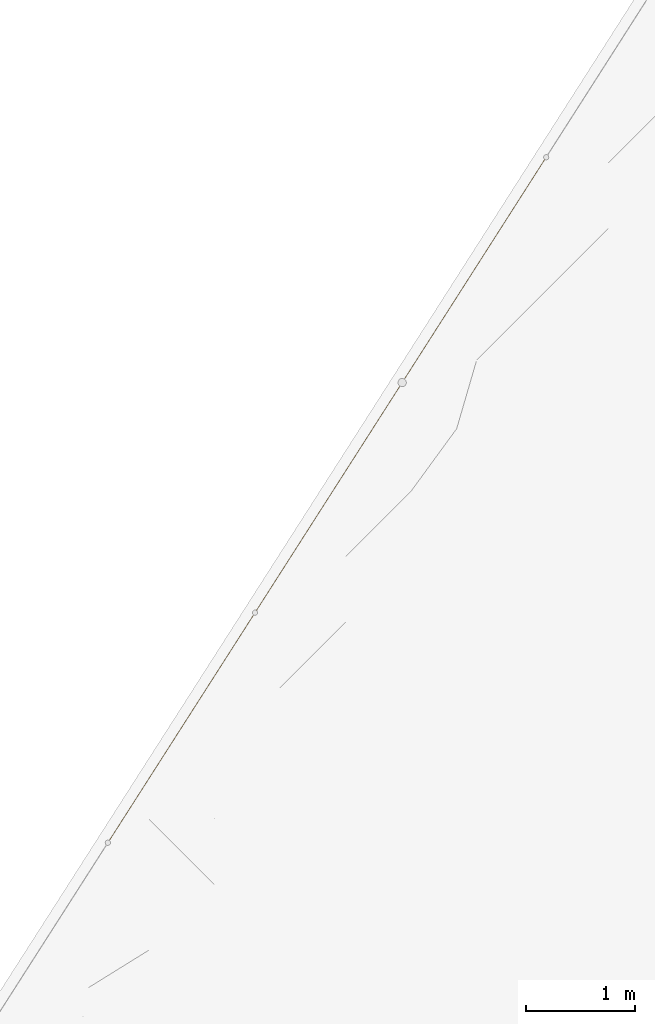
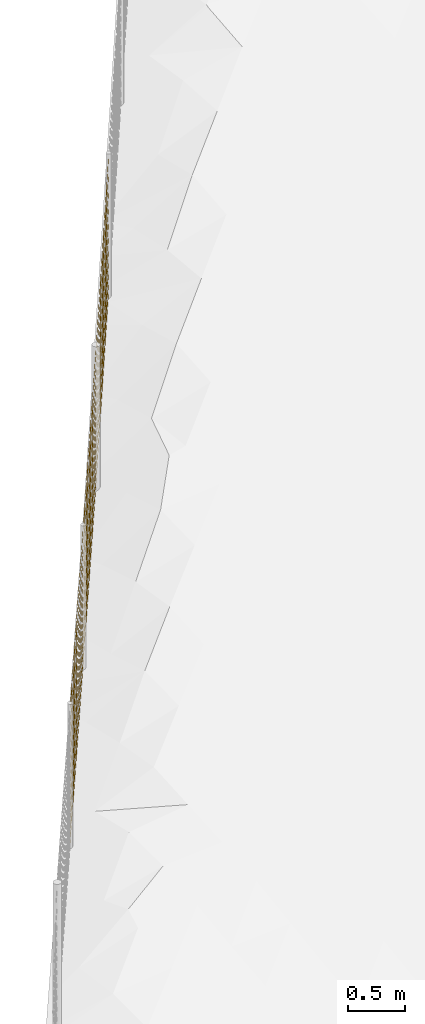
# Not in any storey, part 30 of 72: 3 railings.
"""IFC4 model written with IfcOpenShell, lengths in metres."""

from ifc_helpers import new_model, si_unit, direction, frame, origin_with_axes, place, context, subcontext, project, spatial, polygons, material, element, save


model = new_model("IFC4")

# Units and contexts
model_context = context("Model", 3, precision=1e-05, world=origin_with_axes(), true_north=direction((0.0, 1.0)))
body_context = subcontext(model_context, "Body", "Model", "MODEL_VIEW")
ifc_project = project(units=[si_unit("AREAUNIT", "SQUARE_METRE"), si_unit("VOLUMEUNIT", "CUBIC_METRE"), si_unit("LENGTHUNIT", "METRE")], contexts=[model_context])

# Site
site_placement = place(None, origin_with_axes())
site = spatial("IfcSite", under=ifc_project, at=site_placement, Name="Lares · Rua das Mercês · artigo 4771")

# Railings
ifc_material = material(Name="Aço galvanizado / Stahl verzinkt", Category="steel")
railing_1_placement = place(site_placement, frame((0.0, 0.0, 0.0), z_axis=(0.0, 0.0, 1.0), x_axis=(1.0, -1.03767253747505e-17, 0.0)))
element("IfcRailing", 1, at=railing_1_placement, inside=site, material=ifc_material, Name="Vedação · rede ovelheira 1.044", ObjectType="SHEEP_WIRE_FENCE", PredefinedType="USERDEFINED", context=body_context, shape_type="Tessellation", body=[
    polygons([(-8.2794387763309, 10.6227359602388, 11.3238426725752), (-8.28064960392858, 10.6236267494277, 11.3223458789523), (-8.281966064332, 10.624352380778, 11.3238426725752), (-8.28075523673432, 10.6234615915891, 11.3253394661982), (-6.93311609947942, 12.7277235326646, 11.4874828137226), (-6.9343269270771, 12.7286143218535, 11.4859860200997), (-6.93564338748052, 12.7293399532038, 11.4874828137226), (-6.93443255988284, 12.7284491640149, 11.4889796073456), (-8.2794387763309, 10.6227359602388, 11.4238426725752), (-8.28064960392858, 10.6236267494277, 11.4223458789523), (-8.281966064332, 10.624352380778, 11.4238426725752), (-8.28075523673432, 10.6234615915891, 11.4253394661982), (-6.93311609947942, 12.7277235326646, 11.5874828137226), (-6.9343269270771, 12.7286143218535, 11.5859860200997), (-6.93564338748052, 12.7293399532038, 11.5874828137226), (-6.93443255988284, 12.7284491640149, 11.5889796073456), (-8.2794387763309, 10.6227359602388, 11.5338426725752), (-8.28064960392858, 10.6236267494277, 11.5323458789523), (-8.281966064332, 10.624352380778, 11.5338426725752), (-8.28075523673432, 10.6234615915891, 11.5353394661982), (-6.93311609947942, 12.7277235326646, 11.6974828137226), (-6.9343269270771, 12.7286143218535, 11.6959860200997), (-6.93564338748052, 12.7293399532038, 11.6974828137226), (-6.93443255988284, 12.7284491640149, 11.6989796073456), (-8.2794387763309, 10.6227359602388, 11.6538426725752), (-8.28064960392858, 10.6236267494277, 11.6523458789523), (-8.281966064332, 10.624352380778, 11.6538426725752), (-8.28075523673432, 10.6234615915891, 11.6553394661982), (-6.93311609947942, 12.7277235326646, 11.8174828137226), (-6.9343269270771, 12.7286143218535, 11.8159860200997), (-6.93564338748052, 12.7293399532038, 11.8174828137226), (-6.93443255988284, 12.7284491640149, 11.8189796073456), (-8.2794387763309, 10.6227359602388, 11.7838426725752), (-8.28064960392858, 10.6236267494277, 11.7823458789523), (-8.281966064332, 10.624352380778, 11.7838426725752), (-8.28075523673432, 10.6234615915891, 11.7853394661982), (-6.93311609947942, 12.7277235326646, 11.9474828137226), (-6.9343269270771, 12.7286143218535, 11.9459860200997), (-6.93564338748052, 12.7293399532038, 11.9474828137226), (-6.93443255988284, 12.7284491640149, 11.9489796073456), (-8.2794387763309, 10.6227359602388, 11.9238426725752), (-8.28064960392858, 10.6236267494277, 11.9223458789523), (-8.281966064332, 10.624352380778, 11.9238426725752), (-8.28075523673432, 10.6234615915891, 11.9253394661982), (-6.93311609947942, 12.7277235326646, 12.0874828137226), (-6.9343269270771, 12.7286143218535, 12.0859860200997), (-6.93564338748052, 12.7293399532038, 12.0874828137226), (-6.93443255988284, 12.7284491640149, 12.0889796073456), (-8.2794387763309, 10.6227359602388, 12.0738426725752), (-8.28064960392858, 10.6236267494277, 12.0723458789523), (-8.281966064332, 10.624352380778, 12.0738426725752), (-8.28075523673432, 10.6234615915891, 12.0753394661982), (-6.93311609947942, 12.7277235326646, 12.2374828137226), (-6.9343269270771, 12.7286143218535, 12.2359860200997), (-6.93564338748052, 12.7293399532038, 12.2374828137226), (-6.93443255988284, 12.7284491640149, 12.2389796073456), (-8.2794387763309, 10.6227359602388, 12.2338426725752), (-8.28064960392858, 10.6236267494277, 12.2323458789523), (-8.281966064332, 10.624352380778, 12.2338426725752), (-8.28075523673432, 10.6234615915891, 12.2353394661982), (-6.93311609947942, 12.7277235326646, 12.3974828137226), (-6.9343269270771, 12.7286143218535, 12.3959860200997), (-6.93564338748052, 12.7293399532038, 12.3974828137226), (-6.93443255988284, 12.7284491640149, 12.3989796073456), (-8.2794387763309, 10.6227359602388, 12.4038426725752), (-8.28064960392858, 10.6236267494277, 12.4023458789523), (-8.281966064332, 10.624352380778, 12.4038426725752), (-8.28075523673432, 10.6234615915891, 12.4053394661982), (-6.93311609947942, 12.7277235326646, 12.5674828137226), (-6.9343269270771, 12.7286143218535, 12.5659860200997), (-6.93564338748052, 12.7293399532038, 12.5674828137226), (-6.93443255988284, 12.7284491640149, 12.5689796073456), (-8.2794387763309, 10.6227359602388, 12.5838426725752), (-8.28064960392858, 10.6236267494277, 12.5823458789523), (-8.281966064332, 10.624352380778, 12.5838426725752), (-8.28075523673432, 10.6234615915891, 12.5853394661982), (-6.93311609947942, 12.7277235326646, 12.7474828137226), (-6.9343269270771, 12.7286143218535, 12.7459860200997), (-6.93564338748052, 12.7293399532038, 12.7474828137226), (-6.93443255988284, 12.7284491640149, 12.7489796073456), (-8.2794387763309, 10.6227359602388, 12.7738426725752), (-8.28064960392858, 10.6236267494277, 12.7723458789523), (-8.281966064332, 10.624352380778, 12.7738426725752), (-8.28075523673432, 10.6234615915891, 12.7753394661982), (-6.93311609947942, 12.7277235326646, 12.9374828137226), (-6.9343269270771, 12.7286143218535, 12.9359860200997), (-6.93564338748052, 12.7293399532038, 12.9374828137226), (-6.93443255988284, 12.7284491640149, 12.9389796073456), (-8.11906036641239, 10.877772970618, 11.3434896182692), (-8.12056036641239, 10.876272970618, 11.3434896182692), (-8.11906036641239, 10.874772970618, 11.3434896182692), (-8.11756036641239, 10.876272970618, 11.3434896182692), (-8.11906036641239, 10.877772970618, 12.7934896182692), (-8.12056036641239, 10.876272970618, 12.7934896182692), (-8.11906036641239, 10.874772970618, 12.7934896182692), (-8.11756036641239, 10.876272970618, 12.7934896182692), (-7.95741831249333, 11.1305017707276, 11.3631365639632), (-7.95891831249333, 11.1290017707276, 11.3631365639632), (-7.95741831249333, 11.1275017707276, 11.3631365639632), (-7.95591831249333, 11.1290017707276, 11.3631365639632), (-7.95741831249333, 11.1305017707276, 12.8131365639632), (-7.95891831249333, 11.1290017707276, 12.8131365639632), (-7.95741831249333, 11.1275017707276, 12.8131365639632), (-7.95591831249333, 11.1290017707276, 12.8131365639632), (-7.79577625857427, 11.3832305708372, 11.3827835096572), (-7.79727625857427, 11.3817305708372, 11.3827835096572), (-7.79577625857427, 11.3802305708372, 11.3827835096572), (-7.79427625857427, 11.3817305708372, 11.3827835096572), (-7.79577625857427, 11.3832305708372, 12.8327835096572), (-7.79727625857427, 11.3817305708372, 12.8327835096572), (-7.79577625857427, 11.3802305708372, 12.8327835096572), (-7.79427625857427, 11.3817305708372, 12.8327835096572), (-7.63413420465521, 11.6359593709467, 11.4024304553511), (-7.63563420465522, 11.6344593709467, 11.4024304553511), (-7.63413420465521, 11.6329593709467, 11.4024304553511), (-7.63263420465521, 11.6344593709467, 11.4024304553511), (-7.63413420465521, 11.6359593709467, 12.8524304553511), (-7.63563420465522, 11.6344593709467, 12.8524304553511), (-7.63413420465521, 11.6329593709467, 12.8524304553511), (-7.63263420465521, 11.6344593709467, 12.8524304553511), (-7.47249215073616, 11.8886881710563, 11.4220774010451), (-7.47399215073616, 11.8871881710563, 11.4220774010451), (-7.47249215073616, 11.8856881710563, 11.4220774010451), (-7.47099215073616, 11.8871881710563, 11.4220774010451), (-7.47249215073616, 11.8886881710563, 12.8720774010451), (-7.47399215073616, 11.8871881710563, 12.8720774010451), (-7.47249215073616, 11.8856881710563, 12.8720774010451), (-7.47099215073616, 11.8871881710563, 12.8720774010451), (-7.3108500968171, 12.1414169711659, 11.4417243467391), (-7.3123500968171, 12.1399169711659, 11.4417243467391), (-7.3108500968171, 12.1384169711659, 11.4417243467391), (-7.3093500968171, 12.1399169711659, 11.4417243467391), (-7.3108500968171, 12.1414169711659, 12.8917243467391), (-7.3123500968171, 12.1399169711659, 12.8917243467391), (-7.3108500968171, 12.1384169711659, 12.8917243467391), (-7.3093500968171, 12.1399169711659, 12.8917243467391), (-7.14920804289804, 12.3941457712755, 11.4613712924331), (-7.15070804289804, 12.3926457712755, 11.4613712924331), (-7.14920804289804, 12.3911457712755, 11.4613712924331), (-7.14770804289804, 12.3926457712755, 11.4613712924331), (-7.14920804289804, 12.3941457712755, 12.9113712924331), (-7.15070804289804, 12.3926457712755, 12.9113712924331), (-7.14920804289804, 12.3911457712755, 12.9113712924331), (-7.14770804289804, 12.3926457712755, 12.9113712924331), (-6.98756598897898, 12.6468745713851, 11.481018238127), (-6.98906598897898, 12.6453745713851, 11.481018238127), (-6.98756598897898, 12.6438745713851, 11.481018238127), (-6.98606598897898, 12.6453745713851, 11.481018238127), (-6.98756598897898, 12.6468745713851, 12.931018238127), (-6.98906598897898, 12.6453745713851, 12.931018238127), (-6.98756598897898, 12.6438745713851, 12.931018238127), (-6.98606598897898, 12.6453745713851, 12.931018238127)], [[[4, 3, 2, 1]], [[5, 6, 7, 8]], [[1, 2, 6, 5]], [[2, 3, 7, 6]], [[3, 4, 8, 7]], [[4, 1, 5, 8]], [[12, 11, 10, 9]], [[13, 14, 15, 16]], [[9, 10, 14, 13]], [[10, 11, 15, 14]], [[11, 12, 16, 15]], [[12, 9, 13, 16]], [[20, 19, 18, 17]], [[21, 22, 23, 24]], [[17, 18, 22, 21]], [[18, 19, 23, 22]], [[19, 20, 24, 23]], [[20, 17, 21, 24]], [[28, 27, 26, 25]], [[29, 30, 31, 32]], [[25, 26, 30, 29]], [[26, 27, 31, 30]], [[27, 28, 32, 31]], [[28, 25, 29, 32]], [[36, 35, 34, 33]], [[37, 38, 39, 40]], [[33, 34, 38, 37]], [[34, 35, 39, 38]], [[35, 36, 40, 39]], [[36, 33, 37, 40]], [[44, 43, 42, 41]], [[45, 46, 47, 48]], [[41, 42, 46, 45]], [[42, 43, 47, 46]], [[43, 44, 48, 47]], [[44, 41, 45, 48]], [[52, 51, 50, 49]], [[53, 54, 55, 56]], [[49, 50, 54, 53]], [[50, 51, 55, 54]], [[51, 52, 56, 55]], [[52, 49, 53, 56]], [[60, 59, 58, 57]], [[61, 62, 63, 64]], [[57, 58, 62, 61]], [[58, 59, 63, 62]], [[59, 60, 64, 63]], [[60, 57, 61, 64]], [[68, 67, 66, 65]], [[69, 70, 71, 72]], [[65, 66, 70, 69]], [[66, 67, 71, 70]], [[67, 68, 72, 71]], [[68, 65, 69, 72]], [[76, 75, 74, 73]], [[77, 78, 79, 80]], [[73, 74, 78, 77]], [[74, 75, 79, 78]], [[75, 76, 80, 79]], [[76, 73, 77, 80]], [[84, 83, 82, 81]], [[85, 86, 87, 88]], [[81, 82, 86, 85]], [[82, 83, 87, 86]], [[83, 84, 88, 87]], [[84, 81, 85, 88]], [[92, 91, 90, 89]], [[93, 94, 95, 96]], [[89, 90, 94, 93]], [[90, 91, 95, 94]], [[91, 92, 96, 95]], [[92, 89, 93, 96]], [[100, 99, 98, 97]], [[101, 102, 103, 104]], [[97, 98, 102, 101]], [[98, 99, 103, 102]], [[99, 100, 104, 103]], [[100, 97, 101, 104]], [[108, 107, 106, 105]], [[109, 110, 111, 112]], [[105, 106, 110, 109]], [[106, 107, 111, 110]], [[107, 108, 112, 111]], [[108, 105, 109, 112]], [[116, 115, 114, 113]], [[117, 118, 119, 120]], [[113, 114, 118, 117]], [[114, 115, 119, 118]], [[115, 116, 120, 119]], [[116, 113, 117, 120]], [[124, 123, 122, 121]], [[125, 126, 127, 128]], [[121, 122, 126, 125]], [[122, 123, 127, 126]], [[123, 124, 128, 127]], [[124, 121, 125, 128]], [[132, 131, 130, 129]], [[133, 134, 135, 136]], [[129, 130, 134, 133]], [[130, 131, 135, 134]], [[131, 132, 136, 135]], [[132, 129, 133, 136]], [[140, 139, 138, 137]], [[141, 142, 143, 144]], [[137, 138, 142, 141]], [[138, 139, 143, 142]], [[139, 140, 144, 143]], [[140, 137, 141, 144]], [[148, 147, 146, 145]], [[149, 150, 151, 152]], [[145, 146, 150, 149]], [[146, 147, 151, 150]], [[147, 148, 152, 151]], [[148, 145, 149, 152]]]),
])
railing_2_placement = place(site_placement, frame((0.0, 0.0, 0.0), z_axis=(0.0, 0.0, 1.0), x_axis=(1.0, -1.03767253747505e-17, 0.0)))
element("IfcRailing", 2, at=railing_2_placement, inside=site, material=ifc_material, Name="Vedação · rede ovelheira 1.045", ObjectType="SHEEP_WIRE_FENCE", PredefinedType="USERDEFINED", context=body_context, shape_type="Tessellation", body=[
    polygons([(-6.93311609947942, 12.7277235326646, 11.4874828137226), (-6.93432037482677, 12.7286245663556, 11.4859868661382), (-6.93564338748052, 12.7293399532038, 11.4874828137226), (-6.93443911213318, 12.7284389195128, 11.4889787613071), (-5.58679342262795, 14.8327111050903, 11.6715277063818), (-5.58799769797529, 14.8336121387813, 11.6700317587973), (-5.58932071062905, 14.8343275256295, 11.6715277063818), (-5.5881164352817, 14.8334264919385, 11.6730236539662), (-6.93311609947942, 12.7277235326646, 11.5874828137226), (-6.93432037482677, 12.7286245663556, 11.5859868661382), (-6.93564338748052, 12.7293399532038, 11.5874828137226), (-6.93443911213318, 12.7284389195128, 11.5889787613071), (-5.58679342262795, 14.8327111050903, 11.7715277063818), (-5.58799769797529, 14.8336121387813, 11.7700317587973), (-5.58932071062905, 14.8343275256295, 11.7715277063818), (-5.5881164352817, 14.8334264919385, 11.7730236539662), (-6.93311609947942, 12.7277235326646, 11.6974828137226), (-6.93432037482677, 12.7286245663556, 11.6959868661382), (-6.93564338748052, 12.7293399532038, 11.6974828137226), (-6.93443911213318, 12.7284389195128, 11.6989787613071), (-5.58679342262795, 14.8327111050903, 11.8815277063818), (-5.58799769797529, 14.8336121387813, 11.8800317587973), (-5.58932071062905, 14.8343275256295, 11.8815277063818), (-5.5881164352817, 14.8334264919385, 11.8830236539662), (-6.93311609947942, 12.7277235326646, 11.8174828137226), (-6.93432037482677, 12.7286245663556, 11.8159868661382), (-6.93564338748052, 12.7293399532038, 11.8174828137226), (-6.93443911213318, 12.7284389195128, 11.8189787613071), (-5.58679342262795, 14.8327111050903, 12.0015277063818), (-5.58799769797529, 14.8336121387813, 12.0000317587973), (-5.58932071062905, 14.8343275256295, 12.0015277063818), (-5.5881164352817, 14.8334264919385, 12.0030236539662), (-6.93311609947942, 12.7277235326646, 11.9474828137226), (-6.93432037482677, 12.7286245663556, 11.9459868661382), (-6.93564338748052, 12.7293399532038, 11.9474828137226), (-6.93443911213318, 12.7284389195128, 11.9489787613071), (-5.58679342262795, 14.8327111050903, 12.1315277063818), (-5.58799769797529, 14.8336121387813, 12.1300317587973), (-5.58932071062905, 14.8343275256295, 12.1315277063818), (-5.5881164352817, 14.8334264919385, 12.1330236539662), (-6.93311609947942, 12.7277235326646, 12.0874828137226), (-6.93432037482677, 12.7286245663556, 12.0859868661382), (-6.93564338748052, 12.7293399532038, 12.0874828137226), (-6.93443911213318, 12.7284389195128, 12.0889787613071), (-5.58679342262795, 14.8327111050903, 12.2715277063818), (-5.58799769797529, 14.8336121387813, 12.2700317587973), (-5.58932071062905, 14.8343275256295, 12.2715277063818), (-5.5881164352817, 14.8334264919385, 12.2730236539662), (-6.93311609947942, 12.7277235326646, 12.2374828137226), (-6.93432037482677, 12.7286245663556, 12.2359868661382), (-6.93564338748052, 12.7293399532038, 12.2374828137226), (-6.93443911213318, 12.7284389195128, 12.2389787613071), (-5.58679342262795, 14.8327111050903, 12.4215277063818), (-5.58799769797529, 14.8336121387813, 12.4200317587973), (-5.58932071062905, 14.8343275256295, 12.4215277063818), (-5.5881164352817, 14.8334264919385, 12.4230236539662), (-6.93311609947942, 12.7277235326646, 12.3974828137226), (-6.93432037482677, 12.7286245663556, 12.3959868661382), (-6.93564338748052, 12.7293399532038, 12.3974828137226), (-6.93443911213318, 12.7284389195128, 12.3989787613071), (-5.58679342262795, 14.8327111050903, 12.5815277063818), (-5.58799769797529, 14.8336121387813, 12.5800317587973), (-5.58932071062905, 14.8343275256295, 12.5815277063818), (-5.5881164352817, 14.8334264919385, 12.5830236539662), (-6.93311609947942, 12.7277235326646, 12.5674828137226), (-6.93432037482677, 12.7286245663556, 12.5659868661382), (-6.93564338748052, 12.7293399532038, 12.5674828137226), (-6.93443911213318, 12.7284389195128, 12.5689787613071), (-5.58679342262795, 14.8327111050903, 12.7515277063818), (-5.58799769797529, 14.8336121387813, 12.7500317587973), (-5.58932071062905, 14.8343275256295, 12.7515277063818), (-5.5881164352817, 14.8334264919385, 12.7530236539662), (-6.93311609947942, 12.7277235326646, 12.7474828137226), (-6.93432037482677, 12.7286245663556, 12.7459868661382), (-6.93564338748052, 12.7293399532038, 12.7474828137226), (-6.93443911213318, 12.7284389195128, 12.7489787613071), (-5.58679342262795, 14.8327111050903, 12.9315277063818), (-5.58799769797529, 14.8336121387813, 12.9300317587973), (-5.58932071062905, 14.8343275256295, 12.9315277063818), (-5.5881164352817, 14.8334264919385, 12.9330236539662), (-6.93311609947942, 12.7277235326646, 12.9374828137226), (-6.93432037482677, 12.7286245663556, 12.9359868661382), (-6.93564338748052, 12.7293399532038, 12.9374828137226), (-6.93443911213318, 12.7284389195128, 12.9389787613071), (-5.58679342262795, 14.8327111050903, 13.1215277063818), (-5.58799769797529, 14.8336121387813, 13.1200317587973), (-5.58932071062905, 14.8343275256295, 13.1215277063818), (-5.5881164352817, 14.8334264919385, 13.1230236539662), (-6.77273768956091, 12.9827605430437, 11.5095795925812), (-6.77423768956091, 12.9812605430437, 11.5095795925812), (-6.77273768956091, 12.9797605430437, 11.5095795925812), (-6.77123768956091, 12.9812605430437, 11.5095795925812), (-6.77273768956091, 12.9827605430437, 12.9595795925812), (-6.77423768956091, 12.9812605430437, 12.9595795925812), (-6.77273768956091, 12.9797605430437, 12.9595795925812), (-6.77123768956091, 12.9812605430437, 12.9595795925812), (-6.61109563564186, 13.2354893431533, 11.5316763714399), (-6.61259563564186, 13.2339893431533, 11.5316763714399), (-6.61109563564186, 13.2324893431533, 11.5316763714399), (-6.60959563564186, 13.2339893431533, 11.5316763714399), (-6.61109563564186, 13.2354893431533, 12.9816763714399), (-6.61259563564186, 13.2339893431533, 12.9816763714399), (-6.61109563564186, 13.2324893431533, 12.9816763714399), (-6.60959563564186, 13.2339893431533, 12.9816763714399), (-6.4494535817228, 13.4882181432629, 11.5537731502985), (-6.4509535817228, 13.4867181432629, 11.5537731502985), (-6.4494535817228, 13.4852181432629, 11.5537731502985), (-6.4479535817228, 13.4867181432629, 11.5537731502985), (-6.4494535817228, 13.4882181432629, 13.0037731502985), (-6.4509535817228, 13.4867181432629, 13.0037731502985), (-6.4494535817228, 13.4852181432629, 13.0037731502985), (-6.4479535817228, 13.4867181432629, 13.0037731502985), (-6.28781152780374, 13.7409469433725, 11.5758699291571), (-6.28931152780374, 13.7394469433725, 11.5758699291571), (-6.28781152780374, 13.7379469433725, 11.5758699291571), (-6.28631152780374, 13.7394469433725, 11.5758699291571), (-6.28781152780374, 13.7409469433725, 13.0258699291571), (-6.28931152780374, 13.7394469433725, 13.0258699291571), (-6.28781152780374, 13.7379469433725, 13.0258699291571), (-6.28631152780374, 13.7394469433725, 13.0258699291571), (-6.12616947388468, 13.9936757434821, 11.5979667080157), (-6.12766947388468, 13.9921757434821, 11.5979667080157), (-6.12616947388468, 13.9906757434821, 11.5979667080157), (-6.12466947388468, 13.9921757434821, 11.5979667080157), (-6.12616947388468, 13.9936757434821, 13.0479667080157), (-6.12766947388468, 13.9921757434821, 13.0479667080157), (-6.12616947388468, 13.9906757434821, 13.0479667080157), (-6.12466947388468, 13.9921757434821, 13.0479667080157), (-5.96452741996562, 14.2464045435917, 11.6200634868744), (-5.96602741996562, 14.2449045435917, 11.6200634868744), (-5.96452741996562, 14.2434045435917, 11.6200634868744), (-5.96302741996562, 14.2449045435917, 11.6200634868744), (-5.96452741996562, 14.2464045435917, 13.0700634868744), (-5.96602741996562, 14.2449045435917, 13.0700634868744), (-5.96452741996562, 14.2434045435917, 13.0700634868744), (-5.96302741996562, 14.2449045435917, 13.0700634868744), (-5.80288536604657, 14.4991333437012, 11.642160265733), (-5.80438536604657, 14.4976333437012, 11.642160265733), (-5.80288536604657, 14.4961333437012, 11.642160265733), (-5.80138536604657, 14.4976333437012, 11.642160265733), (-5.80288536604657, 14.4991333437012, 13.092160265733), (-5.80438536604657, 14.4976333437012, 13.092160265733), (-5.80288536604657, 14.4961333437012, 13.092160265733), (-5.80138536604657, 14.4976333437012, 13.092160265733), (-5.64124331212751, 14.7518621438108, 11.6642570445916), (-5.64274331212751, 14.7503621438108, 11.6642570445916), (-5.64124331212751, 14.7488621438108, 11.6642570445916), (-5.63974331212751, 14.7503621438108, 11.6642570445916), (-5.64124331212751, 14.7518621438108, 13.1142570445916), (-5.64274331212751, 14.7503621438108, 13.1142570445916), (-5.64124331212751, 14.7488621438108, 13.1142570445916), (-5.63974331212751, 14.7503621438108, 13.1142570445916)], [[[4, 3, 2, 1]], [[5, 6, 7, 8]], [[1, 2, 6, 5]], [[2, 3, 7, 6]], [[3, 4, 8, 7]], [[4, 1, 5, 8]], [[12, 11, 10, 9]], [[13, 14, 15, 16]], [[9, 10, 14, 13]], [[10, 11, 15, 14]], [[11, 12, 16, 15]], [[12, 9, 13, 16]], [[20, 19, 18, 17]], [[21, 22, 23, 24]], [[17, 18, 22, 21]], [[18, 19, 23, 22]], [[19, 20, 24, 23]], [[20, 17, 21, 24]], [[28, 27, 26, 25]], [[29, 30, 31, 32]], [[25, 26, 30, 29]], [[26, 27, 31, 30]], [[27, 28, 32, 31]], [[28, 25, 29, 32]], [[36, 35, 34, 33]], [[37, 38, 39, 40]], [[33, 34, 38, 37]], [[34, 35, 39, 38]], [[35, 36, 40, 39]], [[36, 33, 37, 40]], [[44, 43, 42, 41]], [[45, 46, 47, 48]], [[41, 42, 46, 45]], [[42, 43, 47, 46]], [[43, 44, 48, 47]], [[44, 41, 45, 48]], [[52, 51, 50, 49]], [[53, 54, 55, 56]], [[49, 50, 54, 53]], [[50, 51, 55, 54]], [[51, 52, 56, 55]], [[52, 49, 53, 56]], [[60, 59, 58, 57]], [[61, 62, 63, 64]], [[57, 58, 62, 61]], [[58, 59, 63, 62]], [[59, 60, 64, 63]], [[60, 57, 61, 64]], [[68, 67, 66, 65]], [[69, 70, 71, 72]], [[65, 66, 70, 69]], [[66, 67, 71, 70]], [[67, 68, 72, 71]], [[68, 65, 69, 72]], [[76, 75, 74, 73]], [[77, 78, 79, 80]], [[73, 74, 78, 77]], [[74, 75, 79, 78]], [[75, 76, 80, 79]], [[76, 73, 77, 80]], [[84, 83, 82, 81]], [[85, 86, 87, 88]], [[81, 82, 86, 85]], [[82, 83, 87, 86]], [[83, 84, 88, 87]], [[84, 81, 85, 88]], [[92, 91, 90, 89]], [[93, 94, 95, 96]], [[89, 90, 94, 93]], [[90, 91, 95, 94]], [[91, 92, 96, 95]], [[92, 89, 93, 96]], [[100, 99, 98, 97]], [[101, 102, 103, 104]], [[97, 98, 102, 101]], [[98, 99, 103, 102]], [[99, 100, 104, 103]], [[100, 97, 101, 104]], [[108, 107, 106, 105]], [[109, 110, 111, 112]], [[105, 106, 110, 109]], [[106, 107, 111, 110]], [[107, 108, 112, 111]], [[108, 105, 109, 112]], [[116, 115, 114, 113]], [[117, 118, 119, 120]], [[113, 114, 118, 117]], [[114, 115, 119, 118]], [[115, 116, 120, 119]], [[116, 113, 117, 120]], [[124, 123, 122, 121]], [[125, 126, 127, 128]], [[121, 122, 126, 125]], [[122, 123, 127, 126]], [[123, 124, 128, 127]], [[124, 121, 125, 128]], [[132, 131, 130, 129]], [[133, 134, 135, 136]], [[129, 130, 134, 133]], [[130, 131, 135, 134]], [[131, 132, 136, 135]], [[132, 129, 133, 136]], [[140, 139, 138, 137]], [[141, 142, 143, 144]], [[137, 138, 142, 141]], [[138, 139, 143, 142]], [[139, 140, 144, 143]], [[140, 137, 141, 144]], [[148, 147, 146, 145]], [[149, 150, 151, 152]], [[145, 146, 150, 149]], [[146, 147, 151, 150]], [[147, 148, 152, 151]], [[148, 145, 149, 152]]]),
])
railing_3_placement = place(site_placement, frame((0.0, 0.0, 0.0), z_axis=(0.0, 0.0, 1.0), x_axis=(1.0, -1.03767253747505e-17, 0.0)))
element("IfcRailing", 3, at=railing_3_placement, inside=site, material=ifc_material, Name="Vedação · rede ovelheira 1.046", ObjectType="SHEEP_WIRE_FENCE", PredefinedType="USERDEFINED", context=body_context, shape_type="Tessellation", body=[
    polygons([(-5.58679305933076, 14.8327116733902, 11.6715277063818), (-5.58794434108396, 14.8336957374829, 11.6700423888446), (-5.58932107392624, 14.8343269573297, 11.6715277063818), (-5.58816979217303, 14.8333428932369, 11.6730130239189), (-4.26947059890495, 16.8943989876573, 12.0163853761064), (-4.27062188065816, 16.89538305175, 12.0149000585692), (-4.27199861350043, 16.8960142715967, 12.0163853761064), (-4.27084733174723, 16.895030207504, 12.0178706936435), (-5.58679305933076, 14.8327116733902, 11.7715277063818), (-5.58794434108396, 14.8336957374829, 11.7700423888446), (-5.58932107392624, 14.8343269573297, 11.7715277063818), (-5.58816979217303, 14.8333428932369, 11.7730130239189), (-4.26947059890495, 16.8943989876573, 12.1163853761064), (-4.27062188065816, 16.89538305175, 12.1149000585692), (-4.27199861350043, 16.8960142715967, 12.1163853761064), (-4.27084733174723, 16.895030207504, 12.1178706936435), (-5.58679305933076, 14.8327116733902, 11.8815277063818), (-5.58794434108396, 14.8336957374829, 11.8800423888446), (-5.58932107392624, 14.8343269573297, 11.8815277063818), (-5.58816979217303, 14.8333428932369, 11.8830130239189), (-4.26947059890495, 16.8943989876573, 12.2263853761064), (-4.27062188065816, 16.89538305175, 12.2249000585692), (-4.27199861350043, 16.8960142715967, 12.2263853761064), (-4.27084733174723, 16.895030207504, 12.2278706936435), (-5.58679305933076, 14.8327116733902, 12.0015277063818), (-5.58794434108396, 14.8336957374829, 12.0000423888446), (-5.58932107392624, 14.8343269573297, 12.0015277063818), (-5.58816979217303, 14.8333428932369, 12.0030130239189), (-4.26947059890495, 16.8943989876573, 12.3463853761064), (-4.27062188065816, 16.89538305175, 12.3449000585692), (-4.27199861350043, 16.8960142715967, 12.3463853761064), (-4.27084733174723, 16.895030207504, 12.3478706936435), (-5.58679305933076, 14.8327116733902, 12.1315277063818), (-5.58794434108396, 14.8336957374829, 12.1300423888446), (-5.58932107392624, 14.8343269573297, 12.1315277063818), (-5.58816979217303, 14.8333428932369, 12.1330130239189), (-4.26947059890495, 16.8943989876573, 12.4763853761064), (-4.27062188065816, 16.89538305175, 12.4749000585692), (-4.27199861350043, 16.8960142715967, 12.4763853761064), (-4.27084733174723, 16.895030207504, 12.4778706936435), (-5.58679305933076, 14.8327116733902, 12.2715277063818), (-5.58794434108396, 14.8336957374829, 12.2700423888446), (-5.58932107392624, 14.8343269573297, 12.2715277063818), (-5.58816979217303, 14.8333428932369, 12.2730130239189), (-4.26947059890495, 16.8943989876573, 12.6163853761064), (-4.27062188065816, 16.89538305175, 12.6149000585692), (-4.27199861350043, 16.8960142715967, 12.6163853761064), (-4.27084733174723, 16.895030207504, 12.6178706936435), (-5.58679305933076, 14.8327116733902, 12.4215277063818), (-5.58794434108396, 14.8336957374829, 12.4200423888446), (-5.58932107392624, 14.8343269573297, 12.4215277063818), (-5.58816979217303, 14.8333428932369, 12.4230130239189), (-4.26947059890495, 16.8943989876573, 12.7663853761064), (-4.27062188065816, 16.89538305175, 12.7649000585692), (-4.27199861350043, 16.8960142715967, 12.7663853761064), (-4.27084733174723, 16.895030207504, 12.7678706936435), (-5.58679305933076, 14.8327116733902, 12.5815277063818), (-5.58794434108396, 14.8336957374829, 12.5800423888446), (-5.58932107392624, 14.8343269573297, 12.5815277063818), (-5.58816979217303, 14.8333428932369, 12.5830130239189), (-4.26947059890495, 16.8943989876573, 12.9263853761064), (-4.27062188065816, 16.89538305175, 12.9249000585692), (-4.27199861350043, 16.8960142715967, 12.9263853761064), (-4.27084733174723, 16.895030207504, 12.9278706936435), (-5.58679305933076, 14.8327116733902, 12.7515277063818), (-5.58794434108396, 14.8336957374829, 12.7500423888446), (-5.58932107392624, 14.8343269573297, 12.7515277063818), (-5.58816979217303, 14.8333428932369, 12.7530130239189), (-4.26947059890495, 16.8943989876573, 13.0963853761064), (-4.27062188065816, 16.89538305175, 13.0949000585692), (-4.27199861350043, 16.8960142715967, 13.0963853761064), (-4.27084733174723, 16.895030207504, 13.0978706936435), (-5.58679305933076, 14.8327116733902, 12.9315277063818), (-5.58794434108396, 14.8336957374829, 12.9300423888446), (-5.58932107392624, 14.8343269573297, 12.9315277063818), (-5.58816979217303, 14.8333428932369, 12.9330130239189), (-4.26947059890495, 16.8943989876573, 13.2763853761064), (-4.27062188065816, 16.89538305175, 13.2749000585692), (-4.27199861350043, 16.8960142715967, 13.2763853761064), (-4.27084733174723, 16.895030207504, 13.2778706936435), (-5.58679305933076, 14.8327116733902, 13.1215277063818), (-5.58794434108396, 14.8336957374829, 13.1200423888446), (-5.58932107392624, 14.8343269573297, 13.1215277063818), (-5.58816979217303, 14.8333428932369, 13.1230130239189), (-4.26947059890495, 16.8943989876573, 13.4663853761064), (-4.27062188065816, 16.89538305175, 13.4649000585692), (-4.27199861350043, 16.8960142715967, 13.4663853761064), (-4.27084733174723, 16.895030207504, 13.4678706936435), (-5.42652867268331, 15.0878207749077, 11.7138137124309), (-5.42802867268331, 15.0863207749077, 11.7138137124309), (-5.42652867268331, 15.0848207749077, 11.7138137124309), (-5.42502867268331, 15.0863207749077, 11.7138137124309), (-5.42652867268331, 15.0878207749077, 13.1638137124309), (-5.42802867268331, 15.0863207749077, 13.1638137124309), (-5.42652867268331, 15.0848207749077, 13.1638137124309), (-5.42502867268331, 15.0863207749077, 13.1638137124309), (-5.26500027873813, 15.3406222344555, 11.7560997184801), (-5.26650027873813, 15.3391222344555, 11.7560997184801), (-5.26500027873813, 15.3376222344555, 11.7560997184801), (-5.26350027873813, 15.3391222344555, 11.7560997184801), (-5.26500027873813, 15.3406222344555, 13.2060997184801), (-5.26650027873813, 15.3391222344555, 13.2060997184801), (-5.26500027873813, 15.3376222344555, 13.2060997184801), (-5.26350027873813, 15.3391222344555, 13.2060997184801), (-5.10347188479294, 15.5934236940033, 11.7983857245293), (-5.10497188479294, 15.5919236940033, 11.7983857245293), (-5.10347188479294, 15.5904236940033, 11.7983857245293), (-5.10197188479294, 15.5919236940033, 11.7983857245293), (-5.10347188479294, 15.5934236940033, 13.2483857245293), (-5.10497188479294, 15.5919236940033, 13.2483857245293), (-5.10347188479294, 15.5904236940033, 13.2483857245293), (-5.10197188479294, 15.5919236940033, 13.2483857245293), (-4.94194349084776, 15.8462251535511, 11.8406717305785), (-4.94344349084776, 15.8447251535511, 11.8406717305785), (-4.94194349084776, 15.8432251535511, 11.8406717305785), (-4.94044349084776, 15.8447251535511, 11.8406717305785), (-4.94194349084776, 15.8462251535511, 13.2906717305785), (-4.94344349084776, 15.8447251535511, 13.2906717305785), (-4.94194349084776, 15.8432251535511, 13.2906717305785), (-4.94044349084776, 15.8447251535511, 13.2906717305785), (-4.78041509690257, 16.0990266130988, 11.8829577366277), (-4.78191509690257, 16.0975266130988, 11.8829577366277), (-4.78041509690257, 16.0960266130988, 11.8829577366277), (-4.77891509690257, 16.0975266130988, 11.8829577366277), (-4.78041509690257, 16.0990266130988, 13.3329577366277), (-4.78191509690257, 16.0975266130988, 13.3329577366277), (-4.78041509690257, 16.0960266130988, 13.3329577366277), (-4.77891509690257, 16.0975266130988, 13.3329577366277), (-4.61888670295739, 16.3518280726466, 11.9252437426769), (-4.62038670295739, 16.3503280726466, 11.9252437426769), (-4.61888670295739, 16.3488280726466, 11.9252437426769), (-4.61738670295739, 16.3503280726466, 11.9252437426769), (-4.61888670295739, 16.3518280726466, 13.3752437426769), (-4.62038670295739, 16.3503280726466, 13.3752437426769), (-4.61888670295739, 16.3488280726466, 13.3752437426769), (-4.61738670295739, 16.3503280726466, 13.3752437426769), (-4.4573583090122, 16.6046295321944, 11.9675297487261), (-4.4588583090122, 16.6031295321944, 11.9675297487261), (-4.4573583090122, 16.6016295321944, 11.9675297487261), (-4.4558583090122, 16.6031295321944, 11.9675297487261), (-4.4573583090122, 16.6046295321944, 13.4175297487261), (-4.4588583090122, 16.6031295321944, 13.4175297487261), (-4.4573583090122, 16.6016295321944, 13.4175297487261), (-4.4558583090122, 16.6031295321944, 13.4175297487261)], [[[4, 3, 2, 1]], [[5, 6, 7, 8]], [[1, 2, 6, 5]], [[2, 3, 7, 6]], [[3, 4, 8, 7]], [[4, 1, 5, 8]], [[12, 11, 10, 9]], [[13, 14, 15, 16]], [[9, 10, 14, 13]], [[10, 11, 15, 14]], [[11, 12, 16, 15]], [[12, 9, 13, 16]], [[20, 19, 18, 17]], [[21, 22, 23, 24]], [[17, 18, 22, 21]], [[18, 19, 23, 22]], [[19, 20, 24, 23]], [[20, 17, 21, 24]], [[28, 27, 26, 25]], [[29, 30, 31, 32]], [[25, 26, 30, 29]], [[26, 27, 31, 30]], [[27, 28, 32, 31]], [[28, 25, 29, 32]], [[36, 35, 34, 33]], [[37, 38, 39, 40]], [[33, 34, 38, 37]], [[34, 35, 39, 38]], [[35, 36, 40, 39]], [[36, 33, 37, 40]], [[44, 43, 42, 41]], [[45, 46, 47, 48]], [[41, 42, 46, 45]], [[42, 43, 47, 46]], [[43, 44, 48, 47]], [[44, 41, 45, 48]], [[52, 51, 50, 49]], [[53, 54, 55, 56]], [[49, 50, 54, 53]], [[50, 51, 55, 54]], [[51, 52, 56, 55]], [[52, 49, 53, 56]], [[60, 59, 58, 57]], [[61, 62, 63, 64]], [[57, 58, 62, 61]], [[58, 59, 63, 62]], [[59, 60, 64, 63]], [[60, 57, 61, 64]], [[68, 67, 66, 65]], [[69, 70, 71, 72]], [[65, 66, 70, 69]], [[66, 67, 71, 70]], [[67, 68, 72, 71]], [[68, 65, 69, 72]], [[76, 75, 74, 73]], [[77, 78, 79, 80]], [[73, 74, 78, 77]], [[74, 75, 79, 78]], [[75, 76, 80, 79]], [[76, 73, 77, 80]], [[84, 83, 82, 81]], [[85, 86, 87, 88]], [[81, 82, 86, 85]], [[82, 83, 87, 86]], [[83, 84, 88, 87]], [[84, 81, 85, 88]], [[92, 91, 90, 89]], [[93, 94, 95, 96]], [[89, 90, 94, 93]], [[90, 91, 95, 94]], [[91, 92, 96, 95]], [[92, 89, 93, 96]], [[100, 99, 98, 97]], [[101, 102, 103, 104]], [[97, 98, 102, 101]], [[98, 99, 103, 102]], [[99, 100, 104, 103]], [[100, 97, 101, 104]], [[108, 107, 106, 105]], [[109, 110, 111, 112]], [[105, 106, 110, 109]], [[106, 107, 111, 110]], [[107, 108, 112, 111]], [[108, 105, 109, 112]], [[116, 115, 114, 113]], [[117, 118, 119, 120]], [[113, 114, 118, 117]], [[114, 115, 119, 118]], [[115, 116, 120, 119]], [[116, 113, 117, 120]], [[124, 123, 122, 121]], [[125, 126, 127, 128]], [[121, 122, 126, 125]], [[122, 123, 127, 126]], [[123, 124, 128, 127]], [[124, 121, 125, 128]], [[132, 131, 130, 129]], [[133, 134, 135, 136]], [[129, 130, 134, 133]], [[130, 131, 135, 134]], [[131, 132, 136, 135]], [[132, 129, 133, 136]], [[140, 139, 138, 137]], [[141, 142, 143, 144]], [[137, 138, 142, 141]], [[138, 139, 143, 142]], [[139, 140, 144, 143]], [[140, 137, 141, 144]]]),
])

save(model, "model.ifc")
